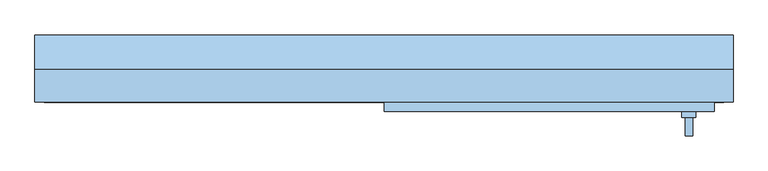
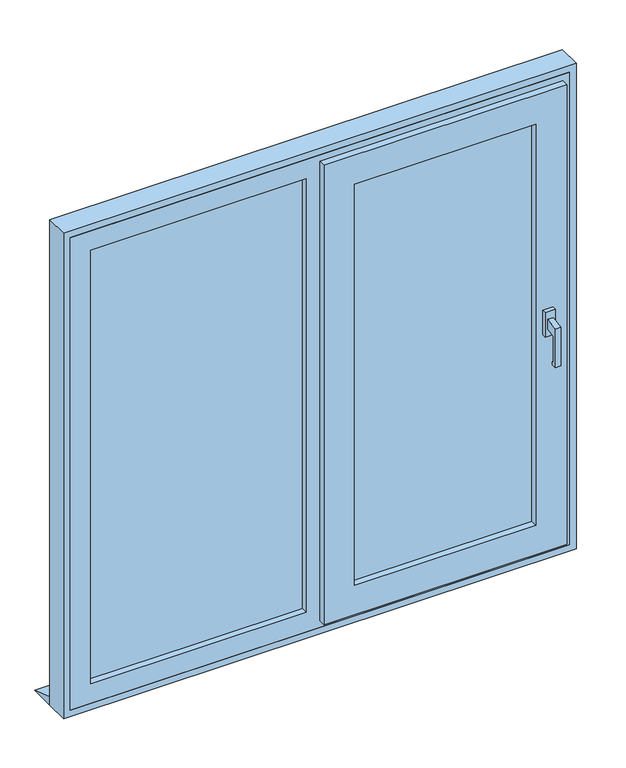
"""IFC4 building model written with IfcOpenShell, lengths in millimetres: window geometry, Окно_2створки : 1460х1460 (створка и глухое)."""

from ifc_helpers import new_model, si_unit, frame, origin, place, context, project, spatial, polyline, outline, extrude, faceted_brep, source, transform, mapped, element, save


def window_53c761ac(model_context):
    return source(origin(), model_context, "Body", "SolidModel", [
        faceted_brep([(670.0, 69.5, 1687.5), (640.0, 69.5, 1687.5), (640.0, 69.5, 1612.5), (670.0, 69.5, 1612.5), (647.0, 69.5, 1665.0), (663.0, 69.5, 1665.0), (663.0, 69.5, 1635.0), (647.0, 69.5, 1635.0), (670.0, 82.5, 1687.5), (670.0, 82.5, 1612.5), (640.0, 82.5, 1612.5), (640.0, 82.5, 1687.5), (663.0, 29.5, 1659.0), (647.0, 29.5, 1659.0), (647.0, 29.5, 1540.0), (663.0, 29.5, 1540.0), (647.0, 39.5, 1630.5), (647.0, 39.5, 1550.0), (647.0, 44.5, 1550.0), (647.0, 44.5, 1540.0), (663.0, 39.5, 1630.5), (663.0, 44.5, 1540.0), (663.0, 44.5, 1550.0), (663.0, 39.5, 1550.0)], [[[0, 1, 2, 3], [4, 5, 6, 7]], [[8, 9, 10, 11]], [[1, 0, 8, 11]], [[2, 1, 11, 10]], [[3, 2, 10, 9]], [[0, 3, 9, 8]], [[12, 13, 14, 15]], [[13, 12, 5, 4]], [[14, 13, 4, 7, 16, 17, 18, 19]], [[7, 6, 20, 16]], [[5, 12, 15, 21, 22, 23, 20, 6]], [[23, 17, 16, 20]], [[22, 21, 19, 18]], [[23, 22, 18, 17]], [[21, 15, 14, 19]]]),
        faceted_brep([(0.0, 82.5, 2360.0), (0.0, 102.5, 2360.0), (0.0, 102.5, 940.0), (0.0, 82.5, 940.0), (710.0, 82.5, 940.0), (710.0, 82.5, 2360.0), (90.0, 82.5, 1030.0), (90.0, 82.5, 2270.0), (620.0, 82.5, 2270.0), (620.0, 82.5, 1030.0), (710.0, 102.5, 940.0), (90.0, 152.5, 1030.0), (620.0, 152.5, 1030.0), (710.0, 102.5, 2360.0), (620.0, 152.5, 2270.0), (90.0, 152.5, 2270.0), (40.0, 152.5, 980.0), (40.0, 152.5, 2320.0), (670.0, 152.5, 2320.0), (670.0, 152.5, 980.0), (40.0, 102.5, 980.0), (670.0, 102.5, 980.0), (670.0, 102.5, 2320.0), (40.0, 102.5, 2320.0)], [[[0, 1, 2, 3]], [[4, 5, 0, 3], [6, 7, 8, 9]], [[3, 2, 10, 4]], [[11, 6, 9, 12]], [[4, 10, 13, 5]], [[12, 9, 8, 14]], [[5, 13, 1, 0]], [[14, 8, 7, 15]], [[16, 17, 18, 19], [12, 14, 15, 11]], [[15, 7, 6, 11]], [[20, 16, 19, 21]], [[21, 19, 18, 22]], [[22, 18, 17, 23]], [[2, 1, 13, 10], [21, 22, 23, 20]], [[23, 17, 16, 20]]]),
        extrude(outline(polyline([(620.0, 102.5), (90.0, 102.5), (90.0, 132.5), (620.0, 132.5), (620.0, 102.5)])), frame((0.0, 0.0, 1030.0), z_axis=(0.0, 0.0, 1.0), x_axis=(1.0, 0.0, 0.0)), (0.0, 0.0, 1.0), 1240.0),
        extrude(outline(polyline([(-40.0, 122.5), (-670.0, 122.5), (-670.0, 152.5), (-40.0, 152.5), (-40.0, 122.5)])), frame((0.0, 0.0, 980.0), z_axis=(0.0, 0.0, 1.0), x_axis=(1.0, 0.0, 0.0)), (0.0, 0.0, 1.0), 1340.0),
        extrude(outline(polyline([(920.0, 730.0), (2380.0, 730.0), (2380.0, -730.0), (920.0, -730.0), (920.0, 730.0)]), holes=[polyline([(2320.0, -670.0), (2320.0, -40.0), (980.0, -40.0), (980.0, -670.0), (2320.0, -670.0)]), polyline([(2320.0, 670.0), (980.0, 670.0), (980.0, 40.0), (2320.0, 40.0), (2320.0, 670.0)])]), frame((0.0, 102.5, 0.0), z_axis=(0.0, 1.0, 0.0), x_axis=(0.0, 0.0, 1.0)), (0.0, 0.0, 1.0), 70.0),
        extrude(outline(polyline([(2400.0, 750.0), (2400.0, -750.0), (900.0, -750.0), (900.0, 750.0), (2400.0, 750.0)]), holes=[polyline([(920.0, -730.0), (2380.0, -730.0), (2380.0, 730.0), (920.0, 730.0), (920.0, -730.0)])]), frame((0.0, 102.5, 0.0), z_axis=(0.0, 1.0, 0.0), x_axis=(0.0, 0.0, 1.0)), (0.0, 0.0, 1.0), 70.0),
        extrude(outline(polyline([(247.5, 900.0), (172.5, 900.0), (172.5, 925.0), (247.5, 900.0)])), frame((-750.0, 0.0, 0.0), z_axis=(1.0, 0.0, 0.0), x_axis=(0.0, 1.0, 0.0)), (0.0, 0.0, 1.0), 1500.0),
    ])


if __name__ == "__main__":
    model = new_model("IFC4")
    model_context = context("Model", 3, world=origin())
    ifc_project = project(units=[si_unit("LENGTHUNIT", "METRE", prefix="MILLI")], contexts=[model_context])
    site = spatial("IfcSite", under=ifc_project)
    building = spatial("IfcBuilding", under=site)
    placement = place(None, origin())
    window_shape = window_53c761ac(model_context)
    element("IfcWindow", 1, ObjectType="Окно_2створки : 1460х1460 (створка и глухое)", at=placement, inside=building, context=model_context, shape_type="MappedRepresentation", body=[
        mapped(window_shape, transform((0.0, 0.0, 0.0), x_axis=(1.0, 0.0, 0.0), y_axis=(0.0, 1.0, 0.0), z_axis=(0.0, 0.0, 1.0))),
    ])
    save(model, "model.ifc")
